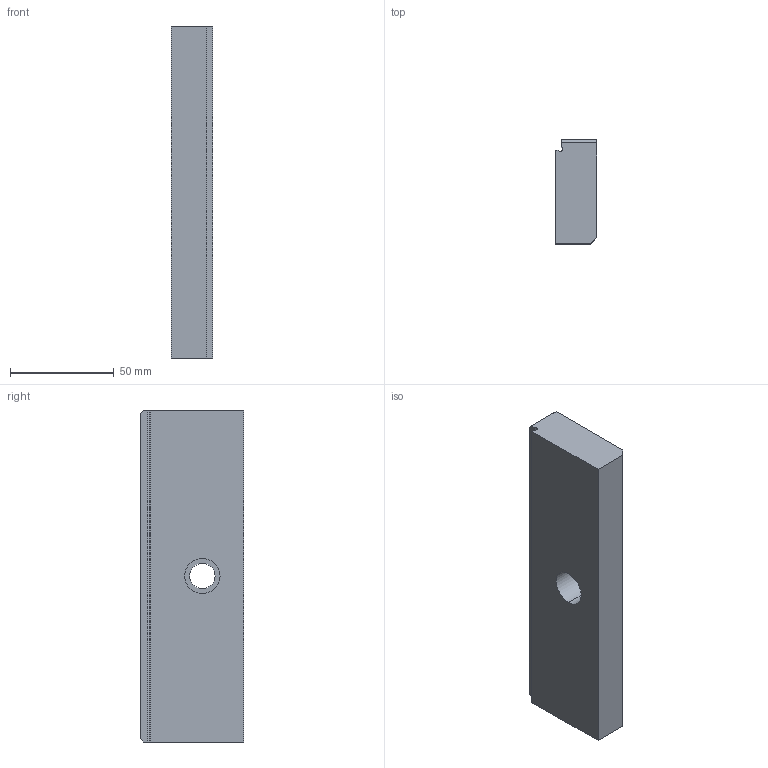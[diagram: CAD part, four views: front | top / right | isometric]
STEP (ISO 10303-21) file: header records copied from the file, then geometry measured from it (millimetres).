
FILE_DESCRIPTION (( 'STEP AP214' ), '1' );
FILE_NAME ('6921034025031.STEP', '2016-02-12T12:53:42', ( '' ), ( '' ), 'SwSTEP 2.0', 'SolidWorks 2015', '' );
FILE_SCHEMA (( 'AUTOMOTIVE_DESIGN' ));
Length unit declared in the file: millimetre
Products named in the file (1): 6921034025031
Bounding box: 20 x 50 x 160 mm (x, y, z)
Volume: 152934 mm3; surface area: 24936.9 mm2
Topology: 1 solids, 1 shells, 20 faces, 51 edges, 34 vertices
Faces by surface type: plane 14, cylinder 6
Entity records: 645 total; most frequent: CARTESIAN_POINT 106, DIRECTION 105, ORIENTED_EDGE 102, EDGE_CURVE 51, LINE 39, VECTOR 39, VERTEX_POINT 34, AXIS2_PLACEMENT_3D 33
